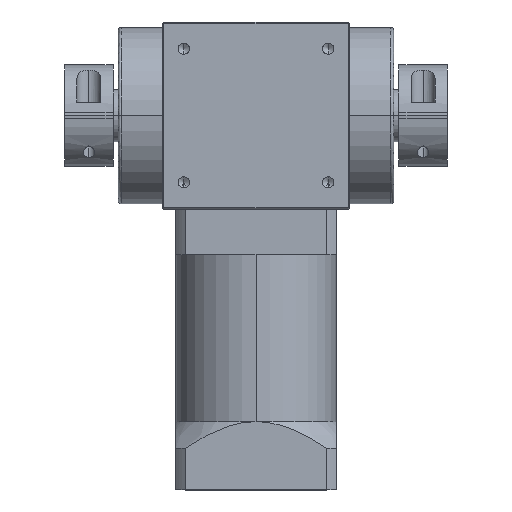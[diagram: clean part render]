
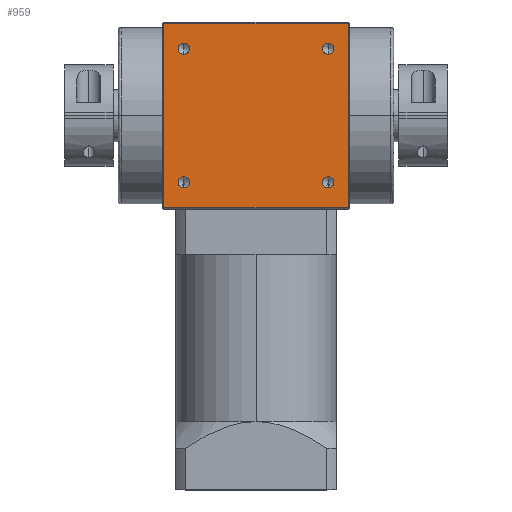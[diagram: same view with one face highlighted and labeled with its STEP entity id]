
A CAD part, top view. The second image highlights one B-rep face of the part: STEP entity #959.
In plain terms, the highlighted planar face has unit normal (0, 0, 1).
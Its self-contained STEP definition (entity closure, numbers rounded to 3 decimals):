
#35 = CIRCLE ( 'NONE', #4948, 2.1 ) ;
#97 = ORIENTED_EDGE ( 'NONE', *, *, #11194, .F. ) ;
#303 = AXIS2_PLACEMENT_3D ( 'NONE', #5486, #11637, #6399 ) ;
#315 = ORIENTED_EDGE ( 'NONE', *, *, #4230, .F. ) ;
#360 = AXIS2_PLACEMENT_3D ( 'NONE', #2276, #2252, #2235 ) ;
#493 = CARTESIAN_POINT ( 'NONE',  ( -27., -25., 35. ) ) ;
#687 = VECTOR ( 'NONE', #743, 1000. ) ;
#743 = DIRECTION ( 'NONE',  ( 0., 1., 0. ) ) ;
#959 = ADVANCED_FACE ( 'NONE', ( #8943, #11511, #4493, #2388, #4760 ), #4461, .F. ) ;
#1299 = CARTESIAN_POINT ( 'NONE',  ( 34.5, -34.5, 35. ) ) ;
#1362 = ORIENTED_EDGE ( 'NONE', *, *, #1773, .F. ) ;
#1442 = EDGE_CURVE ( 'NONE', #2196, #9766, #2479, .T. ) ;
#1454 = DIRECTION ( 'NONE',  ( 0., -1., 0. ) ) ;
#1765 = CIRCLE ( 'NONE', #360, 2.1 ) ;
#1773 = EDGE_CURVE ( 'NONE', #9766, #8434, #9901, .T. ) ;
#1885 = DIRECTION ( 'NONE',  ( 0., -1., 0. ) ) ;
#1899 = CIRCLE ( 'NONE', #2893, 2.1 ) ;
#1973 = DIRECTION ( 'NONE',  ( 0., 0., 1. ) ) ;
#2013 = CARTESIAN_POINT ( 'NONE',  ( 27., -25., 35. ) ) ;
#2196 = VERTEX_POINT ( 'NONE', #10637 ) ;
#2227 = LINE ( 'NONE', #5990, #9068 ) ;
#2235 = DIRECTION ( 'NONE',  ( 0., -1., 0. ) ) ;
#2252 = DIRECTION ( 'NONE',  ( 0., 0., 1. ) ) ;
#2276 = CARTESIAN_POINT ( 'NONE',  ( -27., -25., 35. ) ) ;
#2388 = FACE_BOUND ( 'NONE', #3442, .T. ) ;
#2479 = LINE ( 'NONE', #8208, #687 ) ;
#2540 = ORIENTED_EDGE ( 'NONE', *, *, #9665, .F. ) ;
#2732 = EDGE_CURVE ( 'NONE', #9498, #10821, #9446, .T. ) ;
#2739 = ORIENTED_EDGE ( 'NONE', *, *, #3570, .T. ) ;
#2816 = AXIS2_PLACEMENT_3D ( 'NONE', #493, #6893, #1454 ) ;
#2820 = VECTOR ( 'NONE', #4537, 1000. ) ;
#2893 = AXIS2_PLACEMENT_3D ( 'NONE', #8133, #8094, #8012 ) ;
#3229 = EDGE_CURVE ( 'NONE', #7850, #10599, #35, .T. ) ;
#3442 = EDGE_LOOP ( 'NONE', ( #5466, #4953 ) ) ;
#3570 = EDGE_CURVE ( 'NONE', #2196, #5680, #2227, .T. ) ;
#3620 = DIRECTION ( 'NONE',  ( 0., -1., 0. ) ) ;
#3637 = DIRECTION ( 'NONE',  ( 0., 0., 1. ) ) ;
#3652 = CARTESIAN_POINT ( 'NONE',  ( -27., 25., 35. ) ) ;
#3715 = CARTESIAN_POINT ( 'NONE',  ( -34.5, 34.5, 35. ) ) ;
#3775 = EDGE_CURVE ( 'NONE', #9823, #7757, #1765, .T. ) ;
#3829 = CARTESIAN_POINT ( 'NONE',  ( 27., -22.9, 35. ) ) ;
#3837 = EDGE_LOOP ( 'NONE', ( #5587, #97 ) ) ;
#3878 = CARTESIAN_POINT ( 'NONE',  ( 27., -27.1, 35. ) ) ;
#3984 = EDGE_LOOP ( 'NONE', ( #7750, #5867 ) ) ;
#4070 = CARTESIAN_POINT ( 'NONE',  ( 27., 27.1, 35. ) ) ;
#4122 = DIRECTION ( 'NONE',  ( -1., 0., 0. ) ) ;
#4157 = DIRECTION ( 'NONE',  ( 0., 0., -1. ) ) ;
#4168 = CARTESIAN_POINT ( 'NONE',  ( 0., 0., 35. ) ) ;
#4230 = EDGE_CURVE ( 'NONE', #8445, #8995, #4873, .T. ) ;
#4405 = DIRECTION ( 'NONE',  ( 1., 0., 0. ) ) ;
#4461 = PLANE ( 'NONE',  #6017 ) ;
#4493 = FACE_BOUND ( 'NONE', #3837, .T. ) ;
#4497 = CARTESIAN_POINT ( 'NONE',  ( 27., -25., 35. ) ) ;
#4537 = DIRECTION ( 'NONE',  ( 1., 0., 0. ) ) ;
#4760 = FACE_OUTER_BOUND ( 'NONE', #5122, .T. ) ;
#4873 = CIRCLE ( 'NONE', #5268, 2.1 ) ;
#4932 = CARTESIAN_POINT ( 'NONE',  ( 34.5, 0., 35. ) ) ;
#4948 = AXIS2_PLACEMENT_3D ( 'NONE', #10026, #9991, #9980 ) ;
#4953 = ORIENTED_EDGE ( 'NONE', *, *, #5028, .F. ) ;
#4957 = CARTESIAN_POINT ( 'NONE',  ( 0., 34.5, 35. ) ) ;
#5028 = EDGE_CURVE ( 'NONE', #10821, #9498, #1899, .T. ) ;
#5122 = EDGE_LOOP ( 'NONE', ( #2739, #6534, #1362, #5527 ) ) ;
#5268 = AXIS2_PLACEMENT_3D ( 'NONE', #2013, #1973, #1885 ) ;
#5285 = AXIS2_PLACEMENT_3D ( 'NONE', #4497, #10657, #5387 ) ;
#5387 = DIRECTION ( 'NONE',  ( 0., -1., 0. ) ) ;
#5466 = ORIENTED_EDGE ( 'NONE', *, *, #2732, .F. ) ;
#5486 = CARTESIAN_POINT ( 'NONE',  ( 27., 25., 35. ) ) ;
#5504 = CARTESIAN_POINT ( 'NONE',  ( -27., -27.1, 35. ) ) ;
#5527 = ORIENTED_EDGE ( 'NONE', *, *, #1442, .F. ) ;
#5547 = CARTESIAN_POINT ( 'NONE',  ( -27., -22.9, 35. ) ) ;
#5587 = ORIENTED_EDGE ( 'NONE', *, *, #3229, .F. ) ;
#5680 = VERTEX_POINT ( 'NONE', #1299 ) ;
#5867 = ORIENTED_EDGE ( 'NONE', *, *, #10121, .F. ) ;
#5889 = DIRECTION ( 'NONE',  ( 0., -1., 0. ) ) ;
#5990 = CARTESIAN_POINT ( 'NONE',  ( 0., -34.5, 35. ) ) ;
#6017 = AXIS2_PLACEMENT_3D ( 'NONE', #4168, #4157, #4122 ) ;
#6085 = CARTESIAN_POINT ( 'NONE',  ( -27., 27.1, 35. ) ) ;
#6272 = EDGE_CURVE ( 'NONE', #8434, #5680, #7550, .T. ) ;
#6399 = DIRECTION ( 'NONE',  ( 0., -1., 0. ) ) ;
#6534 = ORIENTED_EDGE ( 'NONE', *, *, #6272, .F. ) ;
#6893 = DIRECTION ( 'NONE',  ( 0., 0., 1. ) ) ;
#7550 = LINE ( 'NONE', #4932, #9591 ) ;
#7750 = ORIENTED_EDGE ( 'NONE', *, *, #3775, .F. ) ;
#7757 = VERTEX_POINT ( 'NONE', #5547 ) ;
#7850 = VERTEX_POINT ( 'NONE', #9274 ) ;
#8012 = DIRECTION ( 'NONE',  ( 0., -1., 0. ) ) ;
#8094 = DIRECTION ( 'NONE',  ( 0., 0., 1. ) ) ;
#8133 = CARTESIAN_POINT ( 'NONE',  ( -27., 25., 35. ) ) ;
#8208 = CARTESIAN_POINT ( 'NONE',  ( -34.5, 0., 35. ) ) ;
#8234 = AXIS2_PLACEMENT_3D ( 'NONE', #3652, #3637, #3620 ) ;
#8434 = VERTEX_POINT ( 'NONE', #10029 ) ;
#8445 = VERTEX_POINT ( 'NONE', #3878 ) ;
#8943 = FACE_BOUND ( 'NONE', #11299, .T. ) ;
#8950 = CIRCLE ( 'NONE', #303, 2.1 ) ;
#8995 = VERTEX_POINT ( 'NONE', #3829 ) ;
#9068 = VECTOR ( 'NONE', #4405, 1000. ) ;
#9274 = CARTESIAN_POINT ( 'NONE',  ( 27., 22.9, 35. ) ) ;
#9446 = CIRCLE ( 'NONE', #8234, 2.1 ) ;
#9498 = VERTEX_POINT ( 'NONE', #10003 ) ;
#9591 = VECTOR ( 'NONE', #5889, 1000. ) ;
#9665 = EDGE_CURVE ( 'NONE', #8995, #8445, #10489, .T. ) ;
#9766 = VERTEX_POINT ( 'NONE', #3715 ) ;
#9823 = VERTEX_POINT ( 'NONE', #5504 ) ;
#9901 = LINE ( 'NONE', #4957, #2820 ) ;
#9980 = DIRECTION ( 'NONE',  ( 0., -1., 0. ) ) ;
#9991 = DIRECTION ( 'NONE',  ( 0., 0., 1. ) ) ;
#10003 = CARTESIAN_POINT ( 'NONE',  ( -27., 22.9, 35. ) ) ;
#10026 = CARTESIAN_POINT ( 'NONE',  ( 27., 25., 35. ) ) ;
#10029 = CARTESIAN_POINT ( 'NONE',  ( 34.5, 34.5, 35. ) ) ;
#10121 = EDGE_CURVE ( 'NONE', #7757, #9823, #10715, .T. ) ;
#10489 = CIRCLE ( 'NONE', #5285, 2.1 ) ;
#10599 = VERTEX_POINT ( 'NONE', #4070 ) ;
#10637 = CARTESIAN_POINT ( 'NONE',  ( -34.5, -34.5, 35. ) ) ;
#10657 = DIRECTION ( 'NONE',  ( 0., 0., 1. ) ) ;
#10715 = CIRCLE ( 'NONE', #2816, 2.1 ) ;
#10821 = VERTEX_POINT ( 'NONE', #6085 ) ;
#11194 = EDGE_CURVE ( 'NONE', #10599, #7850, #8950, .T. ) ;
#11299 = EDGE_LOOP ( 'NONE', ( #315, #2540 ) ) ;
#11511 = FACE_BOUND ( 'NONE', #3984, .T. ) ;
#11637 = DIRECTION ( 'NONE',  ( 0., 0., 1. ) ) ;
